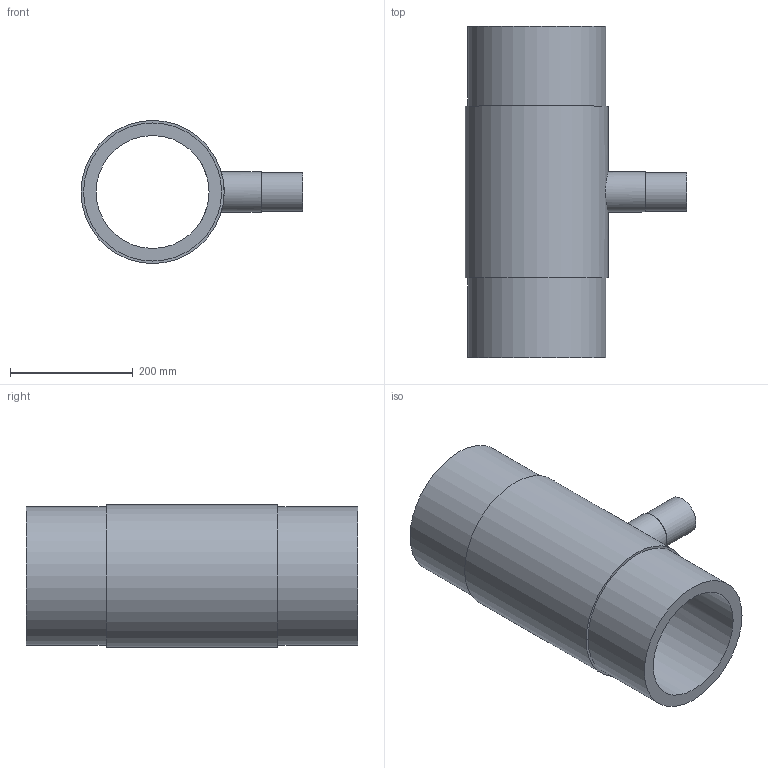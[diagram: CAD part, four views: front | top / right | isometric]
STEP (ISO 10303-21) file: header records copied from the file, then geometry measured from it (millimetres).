
FILE_DESCRIPTION(('Beschreibung'),'1');
FILE_NAME('V:/Ziel/25.20.01.103_red._SDR_11_PE100_225_063_225.STP', '2014-09-15T06:15:58',('Author'), ('Organization'), 'KCM Version 1.1.794.0', 'Kubotek KeyCreator', 'Authorization');
FILE_SCHEMA(('CONFIG_CONTROL_DESIGN'));
Length unit declared in the file: millimetre
Bounding box: 361.6 x 540 x 233.2 mm (x, y, z)
Volume: 8037007.2 mm3; surface area: 780430.3 mm2
Topology: 1 solids, 1 shells, 13 faces, 40 edges, 47 vertices
Faces by surface type: cylinder 7, plane 6
Full cylindrical faces by diameter (mm): 51.4 x1, 63 x1, 65.32 x1, 184 x1, 225 x2, 233.2 x1
Entity records: 750 total; most frequent: CARTESIAN_POINT 327, DIRECTION 77, ORIENTED_EDGE 48, AXIS2_PLACEMENT_3D 28, EDGE_CURVE 24, VECTOR 21, LINE 21, EDGE_LOOP 21
